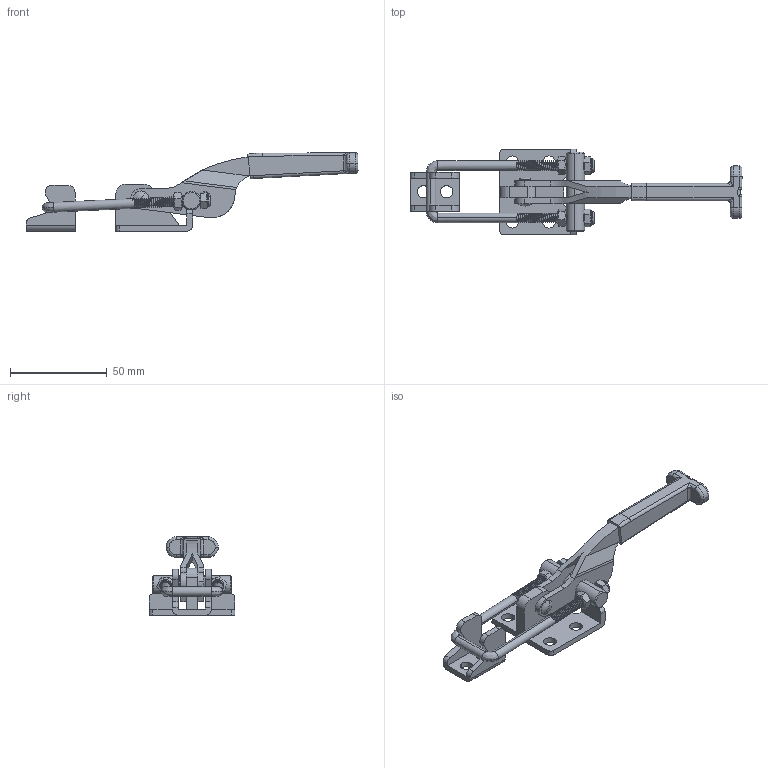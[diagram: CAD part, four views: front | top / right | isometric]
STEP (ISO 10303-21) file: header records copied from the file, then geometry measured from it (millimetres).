
FILE_DESCRIPTION (( 'STEP AP214' ), '1' );
FILE_NAME ('DST-431.STEP', '2022-03-09T14:41:12', ( '' ), ( '' ), 'SwSTEP 2.0', 'SolidWorks 2015', '' );
FILE_SCHEMA (( 'AUTOMOTIVE_DESIGN' ));
Length unit declared in the file: millimetre
Products named in the file (9): DST-431-04 PERMANENT SEAT; DST-431-02 HOOK; DST-431-03 HANDLE; DST-431-05 ROTOR; DST-431; DST-M5 LOCK NUT; DST-431-06; DST-431-01 BASE; DST-M5 NUT
Assembly tree (10 placements, depth 2):
  DST-431
    DST-431-01 BASE
    DST-431-03 HANDLE
    DST-431-06
    DST-431-02 HOOK
    DST-M5 LOCK NUT  x2
    DST-M5 NUT  x2
    DST-431-05 ROTOR
    DST-431-04 PERMANENT SEAT
Bounding box: 171.72 x 44.4 x 40.55 mm (x, y, z)
Volume: 31287.7 mm3; surface area: 23282.9 mm2
Topology: 10 solids, 11 shells, 510 faces, 1393 edges, 900 vertices
Faces by surface type: cylinder 316, plane 112, bspline 59, cone 23
Entity records: 24814 total; most frequent: CARTESIAN_POINT 14317, ORIENTED_EDGE 2478, DIRECTION 1782, EDGE_CURVE 1239, VERTEX_POINT 802, AXIS2_PLACEMENT_3D 645, VECTOR 492, LINE 492
